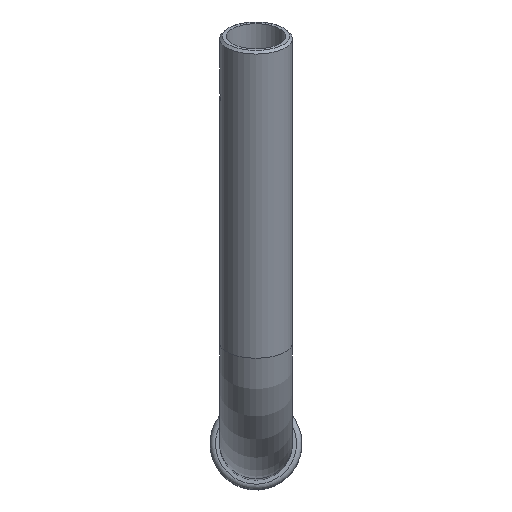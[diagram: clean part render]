
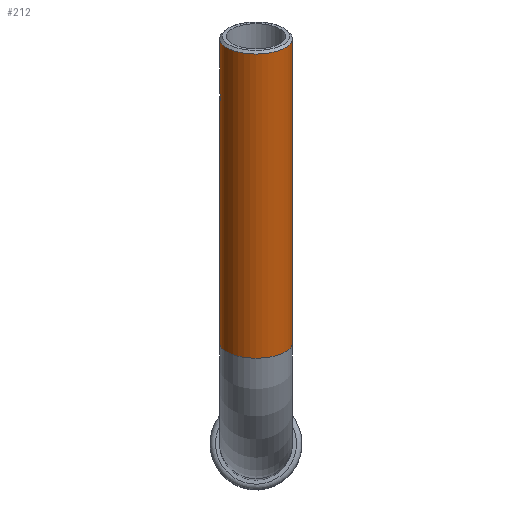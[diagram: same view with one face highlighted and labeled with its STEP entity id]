
A CAD part, top view. The second image highlights one B-rep face of the part: STEP entity #212.
In plain terms, the highlighted cylindrical face has radius 13.5 mm (diameter 27 mm), a full revolution.
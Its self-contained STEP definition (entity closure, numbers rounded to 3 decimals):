
#28=B_SPLINE_CURVE_WITH_KNOTS('',3,(#378,#379,#380,#381,#382,#383,#384,
#385,#386,#387,#388),.UNSPECIFIED.,.T.,.F.,(1,1,1,1,1,1,1,1,1,1,1,1,1,1,
1),(-0.006,-0.004,-0.002,0.,
0.002,0.004,0.006,0.008,
0.01,0.012,0.014,0.016,
0.018,0.02,0.022),.UNSPECIFIED.);
#30=CYLINDRICAL_SURFACE('',#247,13.5);
#41=ORIENTED_EDGE('',*,*,#79,.T.);
#42=ORIENTED_EDGE('',*,*,#80,.F.);
#43=ORIENTED_EDGE('',*,*,#81,.T.);
#79=EDGE_CURVE('',#98,#98,#116,.F.);
#80=EDGE_CURVE('',#99,#99,#117,.T.);
#81=EDGE_CURVE('',#100,#100,#28,.T.);
#98=VERTEX_POINT('',#375);
#99=VERTEX_POINT('',#377);
#100=VERTEX_POINT('',#389);
#116=CIRCLE('',#248,13.5);
#117=CIRCLE('',#249,13.5);
#134=EDGE_LOOP('',(#41));
#135=EDGE_LOOP('',(#42));
#136=EDGE_LOOP('',(#43));
#172=FACE_BOUND('',#134,.T.);
#173=FACE_BOUND('',#135,.T.);
#174=FACE_BOUND('',#136,.T.);
#212=ADVANCED_FACE('',(#172,#173,#174),#30,.T.);
#247=AXIS2_PLACEMENT_3D('',#373,#290,#291);
#248=AXIS2_PLACEMENT_3D('',#374,#292,#293);
#249=AXIS2_PLACEMENT_3D('',#376,#294,#295);
#290=DIRECTION('',(0.,-0.906,-0.423));
#291=DIRECTION('',(0.,0.423,-0.906));
#292=DIRECTION('',(0.,0.906,0.423));
#293=DIRECTION('',(0.,-0.423,0.906));
#294=DIRECTION('',(0.,-0.906,-0.423));
#295=DIRECTION('',(0.,-0.423,0.906));
#373=CARTESIAN_POINT('',(0.,268.072,165.458));
#374=CARTESIAN_POINT('',(0.,149.094,109.977));
#375=CARTESIAN_POINT('',(0.,143.388,122.213));
#376=CARTESIAN_POINT('',(0.,36.664,57.551));
#377=CARTESIAN_POINT('',(0.,30.958,69.786));
#378=CARTESIAN_POINT('',(-13.518,126.239,98.273));
#379=CARTESIAN_POINT('',(-13.271,128.196,97.462));
#380=CARTESIAN_POINT('',(-13.25,130.16,98.279));
#381=CARTESIAN_POINT('',(-13.496,130.968,100.23));
#382=CARTESIAN_POINT('',(-13.517,130.154,102.196));
#383=CARTESIAN_POINT('',(-13.271,128.199,103.003));
#384=CARTESIAN_POINT('',(-13.249,126.238,102.192));
#385=CARTESIAN_POINT('',(-13.496,125.427,100.236));
#386=CARTESIAN_POINT('',(-13.518,126.239,98.273));
#387=CARTESIAN_POINT('',(-13.271,128.196,97.462));
#388=CARTESIAN_POINT('',(-13.25,130.16,98.279));
#389=CARTESIAN_POINT('',(-13.309,128.197,97.733));
